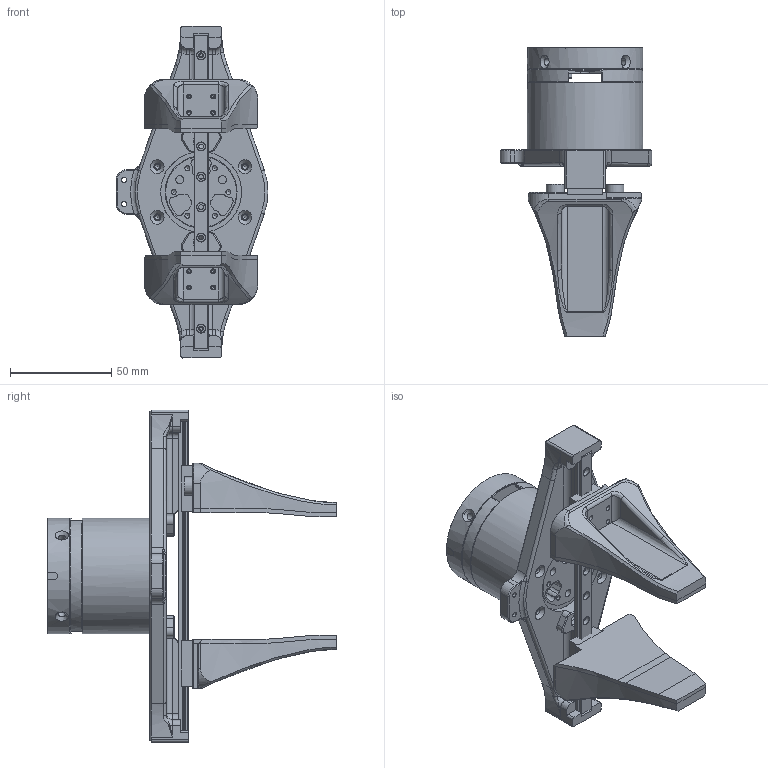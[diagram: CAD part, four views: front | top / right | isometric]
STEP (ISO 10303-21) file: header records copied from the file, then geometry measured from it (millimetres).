
FILE_DESCRIPTION (( 'STEP AP203' ), '1' );
FILE_NAME ('100標蛈.STEP', '2025-07-02T03:30:42', ( '' ), ( '' ), 'SwSTEP 2.0', 'SolidWorks 2019', '' );
FILE_SCHEMA (( 'CONFIG_CONTROL_DESIGN' ));
Length unit declared in the file: millimetre
Products named in the file (4): 標蛈; 楊擘; 100標蛈; 萇儂樓菁釱
Assembly tree (4 placements, depth 2):
  100標蛈
    萇儂樓菁釱
    楊擘
    標蛈  x2
Bounding box: 75 x 142.5 x 164 mm (x, y, z)
Volume: 223817.7 mm3; surface area: 88380.9 mm2
Topology: 13 solids, 13 shells, 985 faces, 2442 edges, 1488 vertices
Faces by surface type: plane 365, cylinder 355, cone 152, bspline 84, torus 25, sphere 4
Full cylindrical faces by diameter (mm): 1.6 x8, 1.7 x6, 2.2 x2, 2.4 x18, 2.5 x20, 2.9 x4, 3 x4, 3.4 x16, 4 x9, 4.2 x10, 6.72 x2, 9 x2, 24 x1, 35 x1, 35.5 x1, 40 x1, 57 x3, 57.2 x1
Entity records: 31366 total; most frequent: CARTESIAN_POINT 11248, DIRECTION 4108, ORIENTED_EDGE 3882, EDGE_CURVE 1941, AXIS2_PLACEMENT_3D 1591, VERTEX_POINT 1279, EDGE_LOOP 1164, FACE_OUTER_BOUND 976
